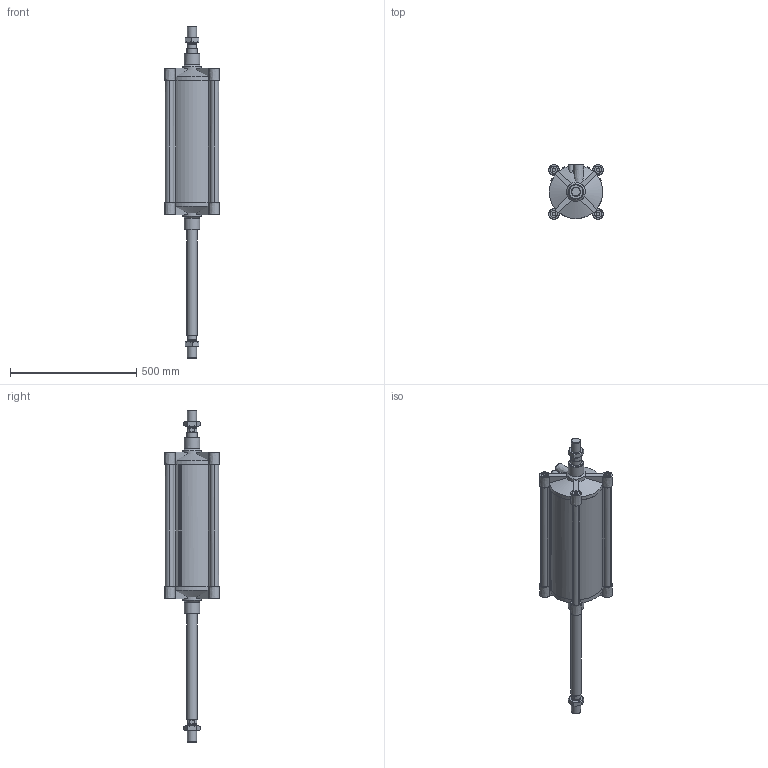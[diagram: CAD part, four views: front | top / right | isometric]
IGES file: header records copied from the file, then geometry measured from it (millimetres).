
Global section: file name: 139#_200_0400_02; native system: Autodesk Inventor 2014; preprocessor: unknown; author: F. Piloni; organization: Pneumax S.p.A.; date: 20151120.143244; units: millimetre
Bounding box: 216 x 216 x 1314 mm (x, y, z)
Volume: 9638350.4 mm3; surface area: 1567352 mm2
Topology: 6 solids, 6 shells, 324 faces, 844 edges, 567 vertices
Faces by surface type: bspline 324
